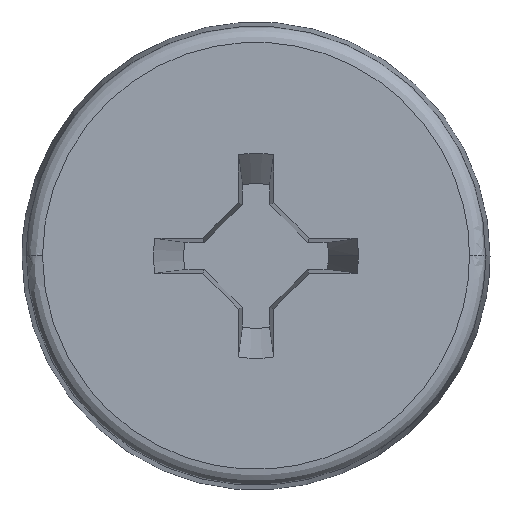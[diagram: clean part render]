
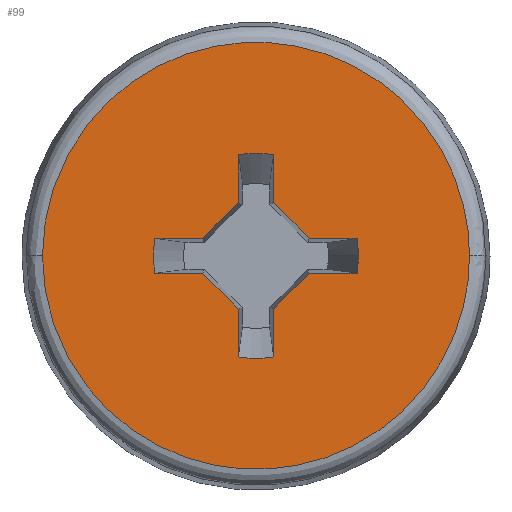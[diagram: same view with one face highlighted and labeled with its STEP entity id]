
A CAD part, top view. The second image highlights one B-rep face of the part: STEP entity #99.
In plain terms, the highlighted planar face has unit normal (0, 0, 1).
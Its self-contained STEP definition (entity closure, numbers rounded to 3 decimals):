
#25=FACE_BOUND('',#285,.T.);
#99=ADVANCED_FACE('',(#191,#25),#1523,.T.);
#191=FACE_OUTER_BOUND('',#284,.T.);
#284=EDGE_LOOP('',(#722,#723));
#285=EDGE_LOOP('',(#724,#725,#726,#727,#728,#729,#730,#731,#732,#733,#734,
#735,#736,#737,#738,#739,#740));
#722=ORIENTED_EDGE('',*,*,#1027,.F.);
#723=ORIENTED_EDGE('',*,*,#1086,.T.);
#724=ORIENTED_EDGE('',*,*,#1032,.T.);
#725=ORIENTED_EDGE('',*,*,#1058,.T.);
#726=ORIENTED_EDGE('',*,*,#1039,.T.);
#727=ORIENTED_EDGE('',*,*,#1067,.T.);
#728=ORIENTED_EDGE('',*,*,#1040,.T.);
#729=ORIENTED_EDGE('',*,*,#1071,.T.);
#730=ORIENTED_EDGE('',*,*,#1041,.T.);
#731=ORIENTED_EDGE('',*,*,#1075,.T.);
#732=ORIENTED_EDGE('',*,*,#1042,.T.);
#733=ORIENTED_EDGE('',*,*,#1079,.T.);
#734=ORIENTED_EDGE('',*,*,#1043,.T.);
#735=ORIENTED_EDGE('',*,*,#1083,.T.);
#736=ORIENTED_EDGE('',*,*,#1044,.T.);
#737=ORIENTED_EDGE('',*,*,#1047,.T.);
#738=ORIENTED_EDGE('',*,*,#1045,.T.);
#739=ORIENTED_EDGE('',*,*,#1053,.T.);
#740=ORIENTED_EDGE('',*,*,#1046,.T.);
#1027=EDGE_CURVE('',#1482,#1483,#1217,.T.);
#1032=EDGE_CURVE('',#1488,#1487,#1221,.T.);
#1039=EDGE_CURVE('',#1491,#1492,#1309,.T.);
#1040=EDGE_CURVE('',#1493,#1494,#1310,.T.);
#1041=EDGE_CURVE('',#1495,#1496,#1311,.T.);
#1042=EDGE_CURVE('',#1497,#1498,#1312,.T.);
#1043=EDGE_CURVE('',#1499,#1500,#1313,.T.);
#1044=EDGE_CURVE('',#1501,#1502,#1314,.T.);
#1045=EDGE_CURVE('',#1503,#1504,#1315,.T.);
#1046=EDGE_CURVE('',#1505,#1488,#1316,.T.);
#1047=EDGE_CURVE('',#1502,#1503,#1225,.T.);
#1053=EDGE_CURVE('',#1504,#1505,#1321,.T.);
#1058=EDGE_CURVE('',#1487,#1491,#1228,.T.);
#1067=EDGE_CURVE('',#1492,#1493,#1333,.T.);
#1071=EDGE_CURVE('',#1494,#1495,#1229,.T.);
#1075=EDGE_CURVE('',#1496,#1497,#1339,.T.);
#1079=EDGE_CURVE('',#1498,#1499,#1231,.T.);
#1083=EDGE_CURVE('',#1500,#1501,#1345,.T.);
#1086=EDGE_CURVE('',#1482,#1483,#1233,.T.);
#1217=(
BOUNDED_CURVE()
B_SPLINE_CURVE(2,(#5500,#5501,#5502,#5503,#5504),.UNSPECIFIED.,.F.,.F.)
B_SPLINE_CURVE_WITH_KNOTS((3,2,3),(0.,0.314,0.627),
 .UNSPECIFIED.)
CURVE()
GEOMETRIC_REPRESENTATION_ITEM()
RATIONAL_B_SPLINE_CURVE((1.,0.707,1.,0.707,1.))
REPRESENTATION_ITEM('')
);
#1221=(
BOUNDED_CURVE()
B_SPLINE_CURVE(2,(#5518,#5519,#5520),.UNSPECIFIED.,.F.,.F.)
B_SPLINE_CURVE_WITH_KNOTS((3,3),(-0.017,0.),.UNSPECIFIED.)
CURVE()
GEOMETRIC_REPRESENTATION_ITEM()
RATIONAL_B_SPLINE_CURVE((1.,0.996,1.))
REPRESENTATION_ITEM('')
);
#1225=(
BOUNDED_CURVE()
B_SPLINE_CURVE(2,(#5560,#5561,#5562),.UNSPECIFIED.,.F.,.F.)
B_SPLINE_CURVE_WITH_KNOTS((3,3),(-0.033,0.),.UNSPECIFIED.)
CURVE()
GEOMETRIC_REPRESENTATION_ITEM()
RATIONAL_B_SPLINE_CURVE((1.,0.985,1.))
REPRESENTATION_ITEM('')
);
#1228=(
BOUNDED_CURVE()
B_SPLINE_CURVE(2,(#5589,#5590,#5591),.UNSPECIFIED.,.F.,.F.)
B_SPLINE_CURVE_WITH_KNOTS((3,3),(-0.017,0.),.UNSPECIFIED.)
CURVE()
GEOMETRIC_REPRESENTATION_ITEM()
RATIONAL_B_SPLINE_CURVE((1.,0.996,1.))
REPRESENTATION_ITEM('')
);
#1229=(
BOUNDED_CURVE()
B_SPLINE_CURVE(2,(#5620,#5621,#5622),.UNSPECIFIED.,.F.,.F.)
B_SPLINE_CURVE_WITH_KNOTS((3,3),(-0.033,0.),.UNSPECIFIED.)
CURVE()
GEOMETRIC_REPRESENTATION_ITEM()
RATIONAL_B_SPLINE_CURVE((1.,0.985,1.))
REPRESENTATION_ITEM('')
);
#1231=(
BOUNDED_CURVE()
B_SPLINE_CURVE(2,(#5642,#5643,#5644),.UNSPECIFIED.,.F.,.F.)
B_SPLINE_CURVE_WITH_KNOTS((3,3),(-0.033,0.),.UNSPECIFIED.)
CURVE()
GEOMETRIC_REPRESENTATION_ITEM()
RATIONAL_B_SPLINE_CURVE((1.,0.985,1.))
REPRESENTATION_ITEM('')
);
#1233=(
BOUNDED_CURVE()
B_SPLINE_CURVE(2,(#5660,#5661,#5662,#5663,#5664),.UNSPECIFIED.,.F.,.F.)
B_SPLINE_CURVE_WITH_KNOTS((3,2,3),(0.,0.314,0.627),
 .UNSPECIFIED.)
CURVE()
GEOMETRIC_REPRESENTATION_ITEM()
RATIONAL_B_SPLINE_CURVE((1.,0.707,1.,0.707,1.))
REPRESENTATION_ITEM('')
);
#1309=B_SPLINE_CURVE_WITH_KNOTS('',1,(#5544,#5545),.UNSPECIFIED.,.F.,.F.,
(2,2),(0.,0.045),.UNSPECIFIED.);
#1310=B_SPLINE_CURVE_WITH_KNOTS('',1,(#5546,#5547),.UNSPECIFIED.,.F.,.F.,
(2,2),(0.,0.045),.UNSPECIFIED.);
#1311=B_SPLINE_CURVE_WITH_KNOTS('',1,(#5548,#5549),.UNSPECIFIED.,.F.,.F.,
(2,2),(0.,0.045),.UNSPECIFIED.);
#1312=B_SPLINE_CURVE_WITH_KNOTS('',1,(#5550,#5551),.UNSPECIFIED.,.F.,.F.,
(2,2),(0.,0.045),.UNSPECIFIED.);
#1313=B_SPLINE_CURVE_WITH_KNOTS('',1,(#5552,#5553),.UNSPECIFIED.,.F.,.F.,
(2,2),(0.,0.045),.UNSPECIFIED.);
#1314=B_SPLINE_CURVE_WITH_KNOTS('',1,(#5554,#5555),.UNSPECIFIED.,.F.,.F.,
(2,2),(0.,0.045),.UNSPECIFIED.);
#1315=B_SPLINE_CURVE_WITH_KNOTS('',1,(#5556,#5557),.UNSPECIFIED.,.F.,.F.,
(2,2),(0.,0.045),.UNSPECIFIED.);
#1316=B_SPLINE_CURVE_WITH_KNOTS('',1,(#5558,#5559),.UNSPECIFIED.,.F.,.F.,
(2,2),(0.,0.045),.UNSPECIFIED.);
#1321=B_SPLINE_CURVE_WITH_KNOTS('',1,(#5578,#5579),.UNSPECIFIED.,.F.,.F.,
(2,2),(-0.047,0.),.UNSPECIFIED.);
#1333=B_SPLINE_CURVE_WITH_KNOTS('',1,(#5610,#5611),.UNSPECIFIED.,.F.,.F.,
(2,2),(-0.047,0.),.UNSPECIFIED.);
#1339=B_SPLINE_CURVE_WITH_KNOTS('',1,(#5632,#5633),.UNSPECIFIED.,.F.,.F.,
(2,2),(-0.047,0.),.UNSPECIFIED.);
#1345=B_SPLINE_CURVE_WITH_KNOTS('',1,(#5654,#5655),.UNSPECIFIED.,.F.,.F.,
(2,2),(-0.047,0.),.UNSPECIFIED.);
#1482=VERTEX_POINT('',#4147);
#1483=VERTEX_POINT('',#4148);
#1487=VERTEX_POINT('',#4152);
#1488=VERTEX_POINT('',#4153);
#1491=VERTEX_POINT('',#4156);
#1492=VERTEX_POINT('',#4157);
#1493=VERTEX_POINT('',#4158);
#1494=VERTEX_POINT('',#4159);
#1495=VERTEX_POINT('',#4160);
#1496=VERTEX_POINT('',#4161);
#1497=VERTEX_POINT('',#4162);
#1498=VERTEX_POINT('',#4163);
#1499=VERTEX_POINT('',#4164);
#1500=VERTEX_POINT('',#4165);
#1501=VERTEX_POINT('',#4166);
#1502=VERTEX_POINT('',#4167);
#1503=VERTEX_POINT('',#4168);
#1504=VERTEX_POINT('',#4169);
#1505=VERTEX_POINT('',#4170);
#1523=PLANE('',#1635);
#1635=AXIS2_PLACEMENT_3D('',#3846,#1654,$);
#1654=DIRECTION('',(0.,0.,1.));
#3846=CARTESIAN_POINT('',(-21.327,-21.327,2.381));
#4147=CARTESIAN_POINT('',(-5.07,0.,2.381));
#4148=CARTESIAN_POINT('',(5.07,0.,2.381));
#4152=CARTESIAN_POINT('',(2.437,0.,2.381));
#4153=CARTESIAN_POINT('',(2.401,0.418,2.381));
#4156=CARTESIAN_POINT('',(2.401,-0.418,2.381));
#4157=CARTESIAN_POINT('',(1.264,-0.418,2.381));
#4158=CARTESIAN_POINT('',(0.418,-1.264,2.381));
#4159=CARTESIAN_POINT('',(0.418,-2.401,2.381));
#4160=CARTESIAN_POINT('',(-0.418,-2.401,2.381));
#4161=CARTESIAN_POINT('',(-0.418,-1.264,2.381));
#4162=CARTESIAN_POINT('',(-1.264,-0.418,2.381));
#4163=CARTESIAN_POINT('',(-2.401,-0.418,2.381));
#4164=CARTESIAN_POINT('',(-2.401,0.418,2.381));
#4165=CARTESIAN_POINT('',(-1.264,0.418,2.381));
#4166=CARTESIAN_POINT('',(-0.418,1.264,2.381));
#4167=CARTESIAN_POINT('',(-0.418,2.401,2.381));
#4168=CARTESIAN_POINT('',(0.418,2.401,2.381));
#4169=CARTESIAN_POINT('',(0.418,1.264,2.381));
#4170=CARTESIAN_POINT('',(1.264,0.418,2.381));
#5500=CARTESIAN_POINT('',(-5.07,0.,2.381));
#5501=CARTESIAN_POINT('',(-5.07,5.07,2.381));
#5502=CARTESIAN_POINT('',(0.,5.07,2.381));
#5503=CARTESIAN_POINT('',(5.07,5.07,2.381));
#5504=CARTESIAN_POINT('',(5.07,0.,2.381));
#5518=CARTESIAN_POINT('',(2.401,0.418,2.381));
#5519=CARTESIAN_POINT('',(2.437,0.211,2.381));
#5520=CARTESIAN_POINT('',(2.437,0.,2.381));
#5544=CARTESIAN_POINT('',(2.401,-0.418,2.381));
#5545=CARTESIAN_POINT('',(1.264,-0.418,2.381));
#5546=CARTESIAN_POINT('',(0.418,-1.264,2.381));
#5547=CARTESIAN_POINT('',(0.418,-2.401,2.381));
#5548=CARTESIAN_POINT('',(-0.418,-2.401,2.381));
#5549=CARTESIAN_POINT('',(-0.418,-1.264,2.381));
#5550=CARTESIAN_POINT('',(-1.264,-0.418,2.381));
#5551=CARTESIAN_POINT('',(-2.401,-0.418,2.381));
#5552=CARTESIAN_POINT('',(-2.401,0.418,2.381));
#5553=CARTESIAN_POINT('',(-1.264,0.418,2.381));
#5554=CARTESIAN_POINT('',(-0.418,1.264,2.381));
#5555=CARTESIAN_POINT('',(-0.418,2.401,2.381));
#5556=CARTESIAN_POINT('',(0.418,2.401,2.381));
#5557=CARTESIAN_POINT('',(0.418,1.264,2.381));
#5558=CARTESIAN_POINT('',(1.264,0.418,2.381));
#5559=CARTESIAN_POINT('',(2.401,0.418,2.381));
#5560=CARTESIAN_POINT('',(-0.418,2.401,2.381));
#5561=CARTESIAN_POINT('',(0.,2.474,2.381));
#5562=CARTESIAN_POINT('',(0.418,2.401,2.381));
#5578=CARTESIAN_POINT('',(0.418,1.264,2.381));
#5579=CARTESIAN_POINT('',(1.264,0.418,2.381));
#5589=CARTESIAN_POINT('',(2.437,0.,2.381));
#5590=CARTESIAN_POINT('',(2.437,-0.211,2.381));
#5591=CARTESIAN_POINT('',(2.401,-0.418,2.381));
#5610=CARTESIAN_POINT('',(1.264,-0.418,2.381));
#5611=CARTESIAN_POINT('',(0.418,-1.264,2.381));
#5620=CARTESIAN_POINT('',(0.418,-2.401,2.381));
#5621=CARTESIAN_POINT('',(0.,-2.474,2.381));
#5622=CARTESIAN_POINT('',(-0.418,-2.401,2.381));
#5632=CARTESIAN_POINT('',(-0.418,-1.264,2.381));
#5633=CARTESIAN_POINT('',(-1.264,-0.418,2.381));
#5642=CARTESIAN_POINT('',(-2.401,-0.418,2.381));
#5643=CARTESIAN_POINT('',(-2.474,0.,2.381));
#5644=CARTESIAN_POINT('',(-2.401,0.418,2.381));
#5654=CARTESIAN_POINT('',(-1.264,0.418,2.381));
#5655=CARTESIAN_POINT('',(-0.418,1.264,2.381));
#5660=CARTESIAN_POINT('',(-5.07,0.,2.381));
#5661=CARTESIAN_POINT('',(-5.07,-5.07,2.381));
#5662=CARTESIAN_POINT('',(0.,-5.07,2.381));
#5663=CARTESIAN_POINT('',(5.07,-5.07,2.381));
#5664=CARTESIAN_POINT('',(5.07,0.,2.381));
